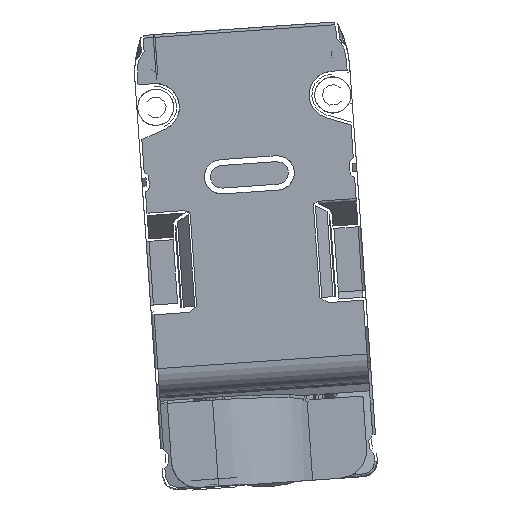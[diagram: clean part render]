
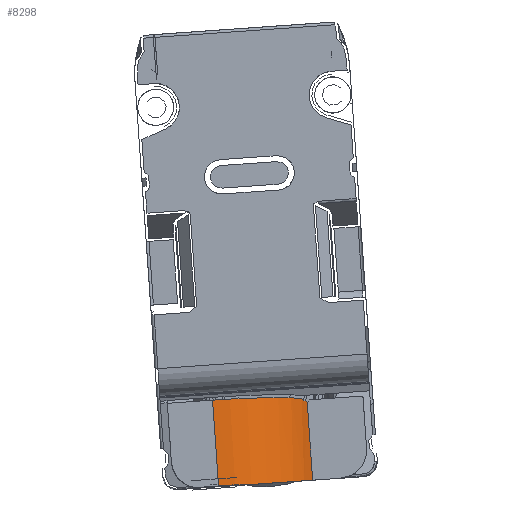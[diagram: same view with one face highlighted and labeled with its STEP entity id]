
A CAD part, front view. The second image highlights one B-rep face of the part: STEP entity #8298.
In plain terms, the highlighted cylindrical face has radius 7.5 mm (diameter 15 mm), a partial arc.
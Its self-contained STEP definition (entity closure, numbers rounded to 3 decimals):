
#7286=DIRECTION('',(-0.07,0.,0.998));
#7287=VECTOR('',#7286,5.56);
#7288=CARTESIAN_POINT('',(-40.701,-950.597,
14.888));
#7289=LINE('',#7288,#7287);
#7293=DIRECTION('',(0.07,0.,-0.998));
#7294=VECTOR('',#7293,6.214);
#7295=CARTESIAN_POINT('',(-47.863,-954.818,
20.616));
#7296=LINE('',#7295,#7294);
#7300=CARTESIAN_POINT('',(-47.863,-954.818,
20.616));
#7301=CARTESIAN_POINT('',(-47.616,-954.818,
20.634));
#7302=CARTESIAN_POINT('',(-47.119,-954.794,
20.666));
#7303=CARTESIAN_POINT('',(-46.371,-954.681,
20.708));
#7304=CARTESIAN_POINT('',(-45.632,-954.491,
20.743));
#7305=CARTESIAN_POINT('',(-44.911,-954.225,
20.769));
#7306=CARTESIAN_POINT('',(-44.218,-953.886,
20.787));
#7307=CARTESIAN_POINT('',(-43.563,-953.478,
20.796));
#7308=CARTESIAN_POINT('',(-42.955,-953.006,
20.796));
#7309=CARTESIAN_POINT('',(-42.4,-952.477,
20.788));
#7310=CARTESIAN_POINT('',(-41.906,-951.9,
20.77));
#7311=CARTESIAN_POINT('',(-41.619,-951.489,
20.753));
#7312=CARTESIAN_POINT('',(-41.487,-951.278,
20.743));
#7317=CARTESIAN_POINT('',(-41.487,-951.278,
20.743));
#7318=CARTESIAN_POINT('',(-41.453,-951.225,
20.741));
#7319=CARTESIAN_POINT('',(-41.39,-951.121,
20.728));
#7320=CARTESIAN_POINT('',(-41.301,-950.971,
20.685));
#7321=CARTESIAN_POINT('',(-41.22,-950.831,
20.621));
#7322=CARTESIAN_POINT('',(-41.149,-950.704,
20.536));
#7323=CARTESIAN_POINT('',(-41.108,-950.631,
20.471));
#7324=CARTESIAN_POINT('',(-41.088,-950.597,
20.435));
#7704=CARTESIAN_POINT('',(-47.43,-947.318,
14.418));
#7705=DIRECTION('',(0.07,0.,-0.998));
#7706=DIRECTION('',(0.897,-0.437,0.063));
#7707=AXIS2_PLACEMENT_3D('',#7704,#7705,#7706);
#8120=CARTESIAN_POINT('',(-40.701,-950.597,
14.888));
#8121=CARTESIAN_POINT('',(-41.088,-950.597,
20.435));
#8122=VERTEX_POINT('',#8120);
#8123=VERTEX_POINT('',#8121);
#8124=VERTEX_POINT('',#7317);
#8125=VERTEX_POINT('',#7300);
#8126=CARTESIAN_POINT('',(-47.43,-954.818,
14.418));
#8127=VERTEX_POINT('',#8126);
#8281=CARTESIAN_POINT('',(-52.434,-947.318,
85.982));
#8282=DIRECTION('',(0.07,0.,-0.998));
#8283=DIRECTION('',(0.,-1.,0.));
#8284=AXIS2_PLACEMENT_3D('',#8281,#8282,#8283);
#8285=CYLINDRICAL_SURFACE('',#8284,7.5);
#8287=ORIENTED_EDGE('',*,*,#8286,.F.);
#8289=ORIENTED_EDGE('',*,*,#8288,.T.);
#8291=ORIENTED_EDGE('',*,*,#8290,.F.);
#8293=ORIENTED_EDGE('',*,*,#8292,.T.);
#8295=ORIENTED_EDGE('',*,*,#8294,.T.);
#8296=EDGE_LOOP('',(#8287,#8289,#8291,#8293,#8295));
#8297=FACE_OUTER_BOUND('',#8296,.F.);
#7313=B_SPLINE_CURVE_WITH_KNOTS('',3,(#7300,#7301,#7302,#7303,#7304,#7305,#7306,
#7307,#7308,#7309,#7310,#7311,#7312),.UNSPECIFIED.,.F.,.F.,(4,1,1,1,1,1,1,1,1,1,
4),(0.,0.1,0.2,0.3,0.4,0.5,0.6,0.7,0.8,0.9,1.),
.UNSPECIFIED.);
#7325=B_SPLINE_CURVE_WITH_KNOTS('',3,(#7317,#7318,#7319,#7320,#7321,#7322,#7323,
#7324),.UNSPECIFIED.,.F.,.F.,(4,1,1,1,1,4),(0.,0.2,0.4,0.6,0.8,1.),
.UNSPECIFIED.);
#7708=CIRCLE('',#7707,7.5);
#8286=EDGE_CURVE('',#8122,#8123,#7289,.T.);
#8288=EDGE_CURVE('',#8122,#8127,#7708,.T.);
#8290=EDGE_CURVE('',#8125,#8127,#7296,.T.);
#8292=EDGE_CURVE('',#8125,#8124,#7313,.T.);
#8294=EDGE_CURVE('',#8124,#8123,#7325,.T.);
#8298=ADVANCED_FACE('',(#8297),#8285,.T.);
